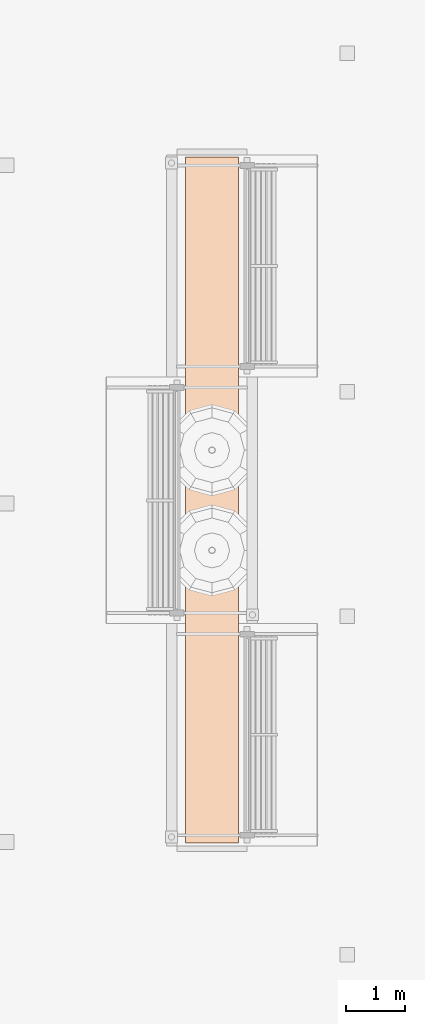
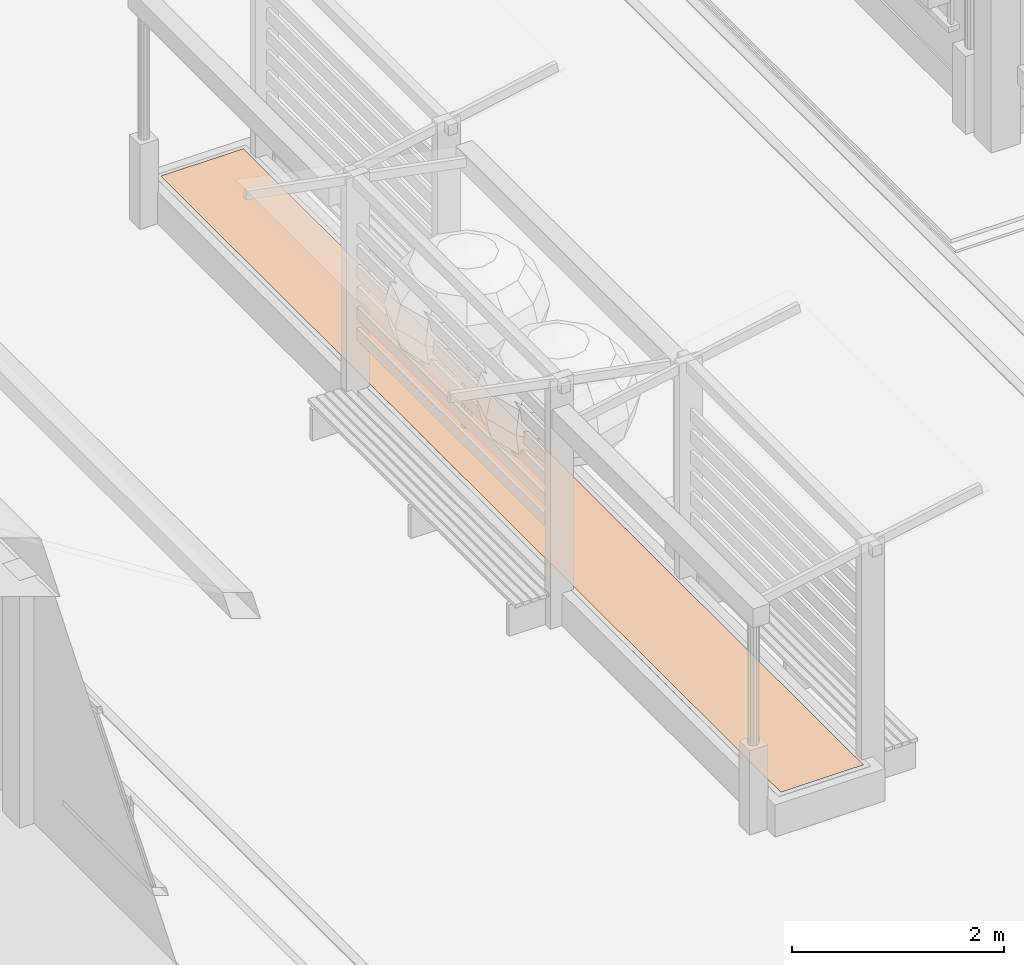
# One storey, part 161 of 177: 1 geographic element.
"""IFC4 building model written with IfcOpenShell, lengths in metres."""

import ifcopenshell
import ifcopenshell.guid

model = None  # the IFC model being written
_history = None  # IfcOwnerHistory: only IFC2X3 demands one
_inside = {}  # id of a spatial element -> (the spatial element, [elements in it])
_under = {}  # id of a project, library or spatial element -> (it, [spatial elements below it])
_declared = {}  # id of a project -> (the project, [libraries it declares])
_typed = {}  # id of a type object -> (the type object, [elements of that type])
_made_of = {}  # id of a material, layer set ... -> (it, [elements and type objects made of it])


def new_model(schema):
    """Start an empty IFC model of exactly this schema.

    Asked for "IFC4X3", IfcOpenShell would pick the latest addendum, in which some entities
    have other attributes; the version numbers below select the first issue.
    IFC2X3 requires an IfcOwnerHistory on every rooted entity: one is made here for all.
    """
    global model, _history
    if schema == "IFC4X3":
        model = ifcopenshell.file(schema_version=(4, 3, 0, 0))
    else:
        model = ifcopenshell.file(schema=schema)
    _inside.clear()
    _under.clear()
    _declared.clear()
    _typed.clear()
    _made_of.clear()
    _history = None
    if model.schema == "IFC2X3":
        org = make("IfcOrganization", Name="unknown")
        user = make(
            "IfcPersonAndOrganization",
            ThePerson=make("IfcPerson", FamilyName="unknown"),
            TheOrganization=org,
        )
        app = make(
            "IfcApplication",
            ApplicationDeveloper=org,
            Version="unknown",
            ApplicationFullName="unknown",
            ApplicationIdentifier="unknown",
        )
        _history = make(
            "IfcOwnerHistory",
            OwningUser=user,
            OwningApplication=app,
            ChangeAction="ADDED",
            CreationDate=0,
        )
    return model


def make(cls, **values):
    """One entity of the class cls with the attributes given. An attribute that is None is left unset."""
    return model.create_entity(
        cls, **{name: value for name, value in values.items() if value is not None}
    )


def rooted(cls, **values):
    """An entity with a GlobalId (a new one), such as an element, a storey or a relation."""
    return make(cls, GlobalId=ifcopenshell.guid.new(), OwnerHistory=_history, **values)


def si_unit(unit_type, name, prefix=None):
    """IfcSIUnit, for example si_unit("LENGTHUNIT", "METRE", prefix="MILLI")."""
    return make("IfcSIUnit", UnitType=unit_type, Prefix=prefix, Name=name)


def assignment(units):
    """IfcUnitAssignment: the units of a project."""
    return None if units is None else make("IfcUnitAssignment", Units=units)


def point(xyz):
    """IfcCartesianPoint."""
    return None if xyz is None else make("IfcCartesianPoint", Coordinates=xyz)


def direction(xyz):
    """IfcDirection."""
    return None if xyz is None else make("IfcDirection", DirectionRatios=xyz)


def frame(location, z_axis=None, x_axis=None):
    """IfcAxis2Placement3D, a coordinate frame: its origin and axes. An axis left out is left unset."""
    return make(
        "IfcAxis2Placement3D",
        Location=point(location),
        Axis=direction(z_axis),
        RefDirection=direction(x_axis),
    )


def origin():
    """The frame at (0, 0, 0) with its axes left unset."""
    return frame((0.0, 0.0, 0.0))


def origin_with_axes():
    """The frame at (0, 0, 0) with the z axis (0, 0, 1) and the x axis (1, 0, 0) written out."""
    return frame((0.0, 0.0, 0.0), z_axis=(0.0, 0.0, 1.0), x_axis=(1.0, 0.0, 0.0))


def place(relative_to, where):
    """IfcLocalPlacement: puts the frame where relative to a parent placement (None: the world)."""
    return make(
        "IfcLocalPlacement", PlacementRelTo=relative_to, RelativePlacement=where
    )


def context(
    kind, dimensions, precision=None, world=None, true_north=None, identifier=None
):
    """IfcGeometricRepresentationContext, for example the 3D "Model" context."""
    return make(
        "IfcGeometricRepresentationContext",
        ContextIdentifier=identifier,
        ContextType=kind,
        CoordinateSpaceDimension=dimensions,
        Precision=precision,
        WorldCoordinateSystem=world,
        TrueNorth=true_north,
    )


def subcontext(parent, identifier, kind, view, scale=None):
    """IfcGeometricRepresentationSubContext, for example "Body" below "Model"."""
    return make(
        "IfcGeometricRepresentationSubContext",
        ContextIdentifier=identifier,
        ContextType=kind,
        ParentContext=parent,
        TargetScale=scale,
        TargetView=view,
    )


def project(units=None, contexts=None):
    """IfcProject with its units and contexts."""
    return rooted(
        "IfcProject",
        Name="project",
        RepresentationContexts=contexts,
        UnitsInContext=assignment(units),
    )


def spatial(cls, under=None, at=None, **own):
    """A site, building, storey or space (cls), placed at a placement, below another one or the project."""
    s = rooted(cls, ObjectPlacement=at, **own)
    if under is not None:
        _under.setdefault(under.id(), (under, []))[1].append(s)
    return s


def point_list(points):
    """IfcCartesianPointList2D or 3D."""
    cls = (
        "IfcCartesianPointList2D" if len(points[0]) == 2 else "IfcCartesianPointList3D"
    )
    return make(cls, CoordList=points)


def triangles(points, corners, closed=None, point_numbers=None):
    """IfcTriangulatedFaceSet: each triangle names its three corners, points numbered from 1."""
    return make(
        "IfcTriangulatedFaceSet",
        Coordinates=point_list(points),
        Closed=closed,
        CoordIndex=corners,
        PnIndex=point_numbers,
    )


def shape(context_of_items, identifier, shape_type, items):
    """IfcShapeRepresentation: the items that make up one representation, for example the "Body"."""
    return make(
        "IfcShapeRepresentation",
        ContextOfItems=context_of_items,
        RepresentationIdentifier=identifier,
        RepresentationType=shape_type,
        Items=items,
    )


def made_of(thing, what):
    """Note that an element or type object is made of a material, layer set ...; save() writes the relation."""
    if what is not None:
        _made_of.setdefault(what.id(), (what, []))[1].append(thing)
    return thing


def element(
    cls,
    number,
    at=None,
    inside=None,
    cuts=None,
    type_object=None,
    material=None,
    context=None,
    identifier="Body",
    shape_type=None,
    held_by="IfcProductDefinitionShape",
    body=None,
    shapes=None,
    **own,
):
    """One element of the class cls, such as IfcWall. Its Tag is "e" and its number.

    at: its placement. inside: the storey or other place that contains it. cuts: it is an
    opening in that element (IfcRelVoidsElement). A single representation is given by context,
    identifier, shape_type and body (its items); several are given by shapes. held_by: the class
    of the entity that holds the representations. save() writes the other relations.
    """
    e = rooted(cls, Tag="e%d" % number, ObjectPlacement=at, **own)
    if body is not None:
        shapes = [shape(context, identifier, shape_type, body)]
    if shapes is not None:
        e.Representation = make(held_by, Representations=shapes)
    if inside is not None:
        _inside.setdefault(inside.id(), (inside, []))[1].append(e)
    if cuts is not None:
        rooted(
            "IfcRelVoidsElement", RelatingBuildingElement=cuts, RelatedOpeningElement=e
        )
    if type_object is not None:
        _typed.setdefault(type_object.id(), (type_object, []))[1].append(e)
    return made_of(e, material)


def aggregate(whole, parts):
    """IfcRelAggregates: a whole, such as a stair, and the parts it consists of."""
    return rooted("IfcRelAggregates", RelatingObject=whole, RelatedObjects=parts)


def save(model, path):
    """Write the relations noted so far, then the file.

    IfcRelAggregates (storeys below a building ...), IfcRelContainedInSpatialStructure (elements
    in a storey), IfcRelDefinesByType, IfcRelAssociatesMaterial and IfcRelDeclares: one each for
    every whole, place, type object, material and project.
    """
    for whole, parts in _under.values():
        aggregate(whole, parts)
    for where, things in _inside.values():
        rooted(
            "IfcRelContainedInSpatialStructure",
            RelatedElements=things,
            RelatingStructure=where,
        )
    for kind, things in _typed.values():
        rooted("IfcRelDefinesByType", RelatedObjects=things, RelatingType=kind)
    for what, things in _made_of.values():
        rooted("IfcRelAssociatesMaterial", RelatedObjects=things, RelatingMaterial=what)
    for by, libraries in _declared.values():
        rooted("IfcRelDeclares", RelatingContext=by, RelatedDefinitions=libraries)
    model.write(path)


model = new_model("IFC4")

# Units and contexts
model_context = context("Model", 3, precision=1e-05, world=origin_with_axes())
body_context = subcontext(model_context, "Body", "Model", "MODEL_VIEW")
ifc_project = project(units=[si_unit("LENGTHUNIT", "METRE"), si_unit("AREAUNIT", "SQUARE_METRE"), si_unit("VOLUMEUNIT", "CUBIC_METRE"), si_unit("PLANEANGLEUNIT", "RADIAN")], contexts=[model_context])

# Site, building, storey
site_placement = place(None, origin_with_axes())
site = spatial("IfcSite", under=ifc_project, at=site_placement, Name="Predio Los Mangos - Morales, San Martín", CompositionType="ELEMENT")
building_placement = place(site_placement, origin())
building = spatial("IfcBuilding", under=site, at=building_placement, Name="Hogar de Refugio Temporal", CompositionType="ELEMENT")
storey_placement = place(building_placement, origin())
storey = spatial("IfcBuildingStorey", under=building, at=storey_placement, Name="NIVEL 1 (NPT +0.00)", CompositionType="ELEMENT", Elevation=0.0)

# Geographic element
geographic_element_placement = place(storey_placement, origin())
element("IfcGeographicElement", 1, at=geographic_element_placement, inside=storey, Name="pasto_jardinera_0", ObjectType="Área verde", PredefinedType="TERRAIN", context=body_context, shape_type="Tessellation", body=[
    triangles([(37.95, 34.255, 0.455), (38.1, 34.255, 0.455), (38.1, 34.405, 0.455), (37.95, 34.405, 0.455), (38.1, 34.555, 0.455), (37.95, 34.555, 0.455), (38.1, 34.705, 0.455), (37.95, 34.705, 0.455), (38.1, 34.855, 0.455), (37.95, 34.855, 0.455), (38.1, 35.005, 0.455), (37.95, 35.005, 0.455), (38.1, 35.155, 0.455), (37.95, 35.155, 0.455), (38.1, 35.305, 0.455), (37.95, 35.305, 0.455), (38.1, 35.455, 0.455), (37.95, 35.455, 0.455), (38.1, 35.605, 0.455), (37.95, 35.605, 0.455), (38.1, 35.755, 0.455), (37.95, 35.755, 0.455), (38.1, 35.905, 0.455), (37.95, 35.905, 0.455), (38.1, 36.055, 0.455), (37.95, 36.055, 0.455), (38.1, 36.205, 0.455), (37.95, 36.205, 0.455), (38.1, 36.355, 0.455), (37.95, 36.355, 0.455), (38.1, 36.505, 0.455), (37.95, 36.505, 0.455), (38.1, 36.655, 0.455), (37.95, 36.655, 0.455), (38.1, 36.805, 0.455), (37.95, 36.805, 0.455), (38.1, 36.955, 0.455), (37.95, 36.955, 0.455), (38.1, 37.105, 0.455), (37.95, 37.105, 0.455), (38.1, 37.255, 0.455), (37.95, 37.255, 0.455), (38.1, 37.405, 0.455), (37.95, 37.405, 0.455), (38.1, 37.555, 0.455), (37.95, 37.555, 0.455), (38.1, 37.705, 0.455), (37.95, 37.705, 0.455), (38.1, 37.855, 0.455), (37.95, 37.855, 0.455), (38.1, 38.005, 0.455), (37.95, 38.005, 0.455), (38.1, 38.155, 0.455), (37.95, 38.155, 0.455), (38.1, 38.305, 0.455), (37.95, 38.305, 0.455), (38.1, 38.455, 0.455), (37.95, 38.455, 0.455), (38.1, 38.605, 0.455), (37.95, 38.605, 0.455), (38.1, 38.755, 0.455), (37.95, 38.755, 0.455), (38.1, 38.905, 0.455), (37.95, 38.905, 0.455), (38.1, 39.055, 0.455), (37.95, 39.055, 0.455), (38.1, 39.205, 0.455), (37.95, 39.205, 0.455), (38.1, 39.355, 0.455), (37.95, 39.355, 0.455), (38.1, 39.505, 0.455), (37.95, 39.505, 0.455), (38.1, 39.655, 0.455), (37.95, 39.655, 0.455), (38.1, 39.805, 0.455), (37.95, 39.805, 0.455), (38.1, 39.955, 0.455), (37.95, 39.955, 0.455), (38.1, 40.105, 0.455), (37.95, 40.105, 0.455), (38.1, 40.255, 0.455), (37.95, 40.255, 0.455), (38.1, 40.405, 0.455), (37.95, 40.405, 0.455), (38.1, 40.555, 0.455), (37.95, 40.555, 0.455), (38.1, 40.705, 0.455), (37.95, 40.705, 0.455), (38.1, 40.855, 0.455), (37.95, 40.855, 0.455), (38.1, 41.005, 0.455), (37.95, 41.005, 0.455), (38.1, 41.155, 0.455), (37.95, 41.155, 0.455), (38.1, 41.305, 0.455), (37.95, 41.305, 0.455), (38.1, 41.455, 0.455), (37.95, 41.455, 0.455), (38.1, 41.605, 0.455), (37.95, 41.605, 0.455), (38.1, 41.755, 0.455), (37.95, 41.755, 0.455), (38.1, 41.905, 0.455), (37.95, 41.905, 0.455), (38.1, 42.055, 0.455), (37.95, 42.055, 0.455), (38.1, 42.205, 0.455), (37.95, 42.205, 0.455), (38.1, 42.355, 0.455), (37.95, 42.355, 0.455), (38.1, 42.505, 0.455), (37.95, 42.505, 0.455), (38.1, 42.655, 0.455), (37.95, 42.655, 0.455), (38.1, 42.805, 0.455), (37.95, 42.805, 0.455), (38.1, 42.955, 0.455), (37.95, 42.955, 0.455), (38.1, 43.105, 0.455), (37.95, 43.105, 0.455), (38.1, 43.255, 0.455), (37.95, 43.255, 0.455), (38.1, 43.405, 0.455), (37.95, 43.405, 0.455), (38.1, 43.555, 0.455), (37.95, 43.555, 0.455), (38.1, 43.705, 0.455), (37.95, 43.705, 0.455), (38.1, 43.855, 0.455), (37.95, 43.855, 0.455), (38.1, 44.005, 0.455), (37.95, 44.005, 0.455), (38.1, 44.155, 0.455), (37.95, 44.155, 0.455), (38.1, 44.305, 0.455), (37.95, 44.305, 0.455), (38.1, 44.455, 0.455), (37.95, 44.455, 0.455), (38.1, 44.605, 0.455), (37.95, 44.605, 0.455), (38.1, 44.755, 0.455), (37.95, 44.755, 0.455), (38.1, 44.905, 0.455), (37.95, 44.905, 0.455), (38.1, 45.055, 0.455), (37.95, 45.055, 0.455), (38.1, 45.205, 0.455), (37.95, 45.205, 0.455), (38.1, 45.355, 0.455), (37.95, 45.355, 0.455), (38.1, 45.505, 0.455), (37.95, 45.505, 0.455), (38.1, 45.655, 0.455), (37.95, 45.655, 0.455), (38.1, 45.805, 0.455), (37.95, 45.805, 0.455), (38.1, 45.955, 0.455), (37.95, 45.955, 0.455), (38.25, 34.255, 0.455), (38.25, 34.405, 0.455), (38.25, 34.555, 0.455), (38.25, 34.705, 0.455), (38.25, 34.855, 0.455), (38.25, 35.005, 0.455), (38.25, 35.155, 0.455), (38.25, 35.305, 0.455), (38.25, 35.455, 0.455), (38.25, 35.605, 0.455), (38.25, 35.755, 0.455), (38.25, 35.905, 0.455), (38.25, 36.055, 0.455), (38.25, 36.205, 0.455), (38.25, 36.355, 0.455), (38.25, 36.505, 0.455), (38.25, 36.655, 0.455), (38.25, 36.805, 0.455), (38.25, 36.955, 0.455), (38.25, 37.105, 0.455), (38.25, 37.255, 0.455), (38.25, 37.405, 0.455), (38.25, 37.555, 0.455), (38.25, 37.705, 0.455), (38.25, 37.855, 0.455), (38.25, 38.005, 0.455), (38.25, 38.155, 0.455), (38.25, 38.305, 0.455), (38.25, 38.455, 0.455), (38.25, 38.605, 0.455), (38.25, 38.755, 0.455), (38.25, 38.905, 0.455), (38.25, 39.055, 0.455), (38.25, 39.205, 0.455), (38.25, 39.355, 0.455), (38.25, 39.505, 0.455), (38.25, 39.655, 0.455), (38.25, 39.805, 0.455), (38.25, 39.955, 0.455), (38.25, 40.105, 0.455), (38.25, 40.255, 0.455), (38.25, 40.405, 0.455), (38.25, 40.555, 0.455), (38.25, 40.705, 0.455), (38.25, 40.855, 0.455), (38.25, 41.005, 0.455), (38.25, 41.155, 0.455), (38.25, 41.305, 0.455), (38.25, 41.455, 0.455), (38.25, 41.605, 0.455), (38.25, 41.755, 0.455), (38.25, 41.905, 0.455), (38.25, 42.055, 0.455), (38.25, 42.205, 0.455), (38.25, 42.355, 0.455), (38.25, 42.505, 0.455), (38.25, 42.655, 0.455), (38.25, 42.805, 0.455), (38.25, 42.955, 0.455), (38.25, 43.105, 0.455), (38.25, 43.255, 0.455), (38.25, 43.405, 0.455), (38.25, 43.555, 0.455), (38.25, 43.705, 0.455), (38.25, 43.855, 0.455), (38.25, 44.005, 0.455), (38.25, 44.155, 0.455), (38.25, 44.305, 0.455), (38.25, 44.455, 0.455), (38.25, 44.605, 0.455), (38.25, 44.755, 0.455), (38.25, 44.905, 0.455), (38.25, 45.055, 0.455), (38.25, 45.205, 0.455), (38.25, 45.355, 0.455), (38.25, 45.505, 0.455), (38.25, 45.655, 0.455), (38.25, 45.805, 0.455), (38.25, 45.955, 0.455), (38.4, 34.255, 0.455), (38.4, 34.405, 0.455), (38.4, 34.555, 0.455), (38.4, 34.705, 0.455), (38.4, 34.855, 0.455), (38.4, 35.005, 0.455), (38.4, 35.155, 0.455), (38.4, 35.305, 0.455), (38.4, 35.455, 0.455), (38.4, 35.605, 0.455), (38.4, 35.755, 0.455), (38.4, 35.905, 0.455), (38.4, 36.055, 0.455), (38.4, 36.205, 0.455), (38.4, 36.355, 0.455), (38.4, 36.505, 0.455), (38.4, 36.655, 0.455), (38.4, 36.805, 0.455), (38.4, 36.955, 0.455), (38.4, 37.105, 0.455), (38.4, 37.255, 0.455), (38.4, 37.405, 0.455), (38.4, 37.555, 0.455), (38.4, 37.705, 0.455), (38.4, 37.855, 0.455), (38.4, 38.005, 0.455), (38.4, 38.155, 0.455), (38.4, 38.305, 0.455), (38.4, 38.455, 0.455), (38.4, 38.605, 0.455), (38.4, 38.755, 0.455), (38.4, 38.905, 0.455), (38.4, 39.055, 0.455), (38.4, 39.205, 0.455), (38.4, 39.355, 0.455), (38.4, 39.505, 0.455), (38.4, 39.655, 0.455), (38.4, 39.805, 0.455), (38.4, 39.955, 0.455), (38.4, 40.105, 0.455), (38.4, 40.255, 0.455), (38.4, 40.405, 0.455), (38.4, 40.555, 0.455), (38.4, 40.705, 0.455), (38.4, 40.855, 0.455), (38.4, 41.005, 0.455), (38.4, 41.155, 0.455), (38.4, 41.305, 0.455), (38.4, 41.455, 0.455), (38.4, 41.605, 0.455), (38.4, 41.755, 0.455), (38.4, 41.905, 0.455), (38.4, 42.055, 0.455), (38.4, 42.205, 0.455), (38.4, 42.355, 0.455), (38.4, 42.505, 0.455), (38.4, 42.655, 0.455), (38.4, 42.805, 0.455), (38.4, 42.955, 0.455), (38.4, 43.105, 0.455), (38.4, 43.255, 0.455), (38.4, 43.405, 0.455), (38.4, 43.555, 0.455), (38.4, 43.705, 0.455), (38.4, 43.855, 0.455), (38.4, 44.005, 0.455), (38.4, 44.155, 0.455), (38.4, 44.305, 0.455), (38.4, 44.455, 0.455), (38.4, 44.605, 0.455), (38.4, 44.755, 0.455), (38.4, 44.905, 0.455), (38.4, 45.055, 0.455), (38.4, 45.205, 0.455), (38.4, 45.355, 0.455), (38.4, 45.505, 0.455), (38.4, 45.655, 0.455), (38.4, 45.805, 0.455), (38.4, 45.955, 0.455), (38.55, 34.255, 0.455), (38.55, 34.405, 0.455), (38.55, 34.555, 0.455), (38.55, 34.705, 0.455), (38.55, 34.855, 0.455), (38.55, 35.005, 0.455), (38.55, 35.155, 0.455), (38.55, 35.305, 0.455), (38.55, 35.455, 0.455), (38.55, 35.605, 0.455), (38.55, 35.755, 0.455), (38.55, 35.905, 0.455), (38.55, 36.055, 0.455), (38.55, 36.205, 0.455), (38.55, 36.355, 0.455), (38.55, 36.505, 0.455), (38.55, 36.655, 0.455), (38.55, 36.805, 0.455), (38.55, 36.955, 0.455), (38.55, 37.105, 0.455), (38.55, 37.255, 0.455), (38.55, 37.405, 0.455), (38.55, 37.555, 0.455), (38.55, 37.705, 0.455), (38.55, 37.855, 0.455), (38.55, 38.005, 0.455), (38.55, 38.155, 0.455), (38.55, 38.305, 0.455), (38.55, 38.455, 0.455), (38.55, 38.605, 0.455), (38.55, 38.755, 0.455), (38.55, 38.905, 0.455), (38.55, 39.055, 0.455), (38.55, 39.205, 0.455), (38.55, 39.355, 0.455), (38.55, 39.505, 0.455), (38.55, 39.655, 0.455), (38.55, 39.805, 0.455), (38.55, 39.955, 0.455), (38.55, 40.105, 0.455), (38.55, 40.255, 0.455), (38.55, 40.405, 0.455), (38.55, 40.555, 0.455), (38.55, 40.705, 0.455), (38.55, 40.855, 0.455), (38.55, 41.005, 0.455), (38.55, 41.155, 0.455), (38.55, 41.305, 0.455), (38.55, 41.455, 0.455), (38.55, 41.605, 0.455), (38.55, 41.755, 0.455), (38.55, 41.905, 0.455), (38.55, 42.055, 0.455), (38.55, 42.205, 0.455), (38.55, 42.355, 0.455), (38.55, 42.505, 0.455), (38.55, 42.655, 0.455), (38.55, 42.805, 0.455), (38.55, 42.955, 0.455), (38.55, 43.105, 0.455), (38.55, 43.255, 0.455), (38.55, 43.405, 0.455), (38.55, 43.555, 0.455), (38.55, 43.705, 0.455), (38.55, 43.855, 0.455), (38.55, 44.005, 0.455), (38.55, 44.155, 0.455), (38.55, 44.305, 0.455), (38.55, 44.455, 0.455), (38.55, 44.605, 0.455), (38.55, 44.755, 0.455), (38.55, 44.905, 0.455), (38.55, 45.055, 0.455), (38.55, 45.205, 0.455), (38.55, 45.355, 0.455), (38.55, 45.505, 0.455), (38.55, 45.655, 0.455), (38.55, 45.805, 0.455), (38.55, 45.955, 0.455), (38.7, 34.255, 0.455), (38.7, 34.405, 0.455), (38.7, 34.555, 0.455), (38.7, 34.705, 0.455), (38.7, 34.855, 0.455), (38.7, 35.005, 0.455), (38.7, 35.155, 0.455), (38.7, 35.305, 0.455), (38.7, 35.455, 0.455), (38.7, 35.605, 0.455), (38.7, 35.755, 0.455), (38.7, 35.905, 0.455), (38.7, 36.055, 0.455), (38.7, 36.205, 0.455), (38.7, 36.355, 0.455), (38.7, 36.505, 0.455), (38.7, 36.655, 0.455), (38.7, 36.805, 0.455), (38.7, 36.955, 0.455), (38.7, 37.105, 0.455), (38.7, 37.255, 0.455), (38.7, 37.405, 0.455), (38.7, 37.555, 0.455), (38.7, 37.705, 0.455), (38.7, 37.855, 0.455), (38.7, 38.005, 0.455), (38.7, 38.155, 0.455), (38.7, 38.305, 0.455), (38.7, 38.455, 0.455), (38.7, 38.605, 0.455), (38.7, 38.755, 0.455), (38.7, 38.905, 0.455), (38.7, 39.055, 0.455), (38.7, 39.205, 0.455), (38.7, 39.355, 0.455), (38.7, 39.505, 0.455), (38.7, 39.655, 0.455), (38.7, 39.805, 0.455), (38.7, 39.955, 0.455), (38.7, 40.105, 0.455), (38.7, 40.255, 0.455), (38.7, 40.405, 0.455), (38.7, 40.555, 0.455), (38.7, 40.705, 0.455), (38.7, 40.855, 0.455), (38.7, 41.005, 0.455), (38.7, 41.155, 0.455), (38.7, 41.305, 0.455), (38.7, 41.455, 0.455), (38.7, 41.605, 0.455), (38.7, 41.755, 0.455), (38.7, 41.905, 0.455), (38.7, 42.055, 0.455), (38.7, 42.205, 0.455), (38.7, 42.355, 0.455), (38.7, 42.505, 0.455), (38.7, 42.655, 0.455), (38.7, 42.805, 0.455), (38.7, 42.955, 0.455), (38.7, 43.105, 0.455), (38.7, 43.255, 0.455), (38.7, 43.405, 0.455), (38.7, 43.555, 0.455), (38.7, 43.705, 0.455), (38.7, 43.855, 0.455), (38.7, 44.005, 0.455), (38.7, 44.155, 0.455), (38.7, 44.305, 0.455), (38.7, 44.455, 0.455), (38.7, 44.605, 0.455), (38.7, 44.755, 0.455), (38.7, 44.905, 0.455), (38.7, 45.055, 0.455), (38.7, 45.205, 0.455), (38.7, 45.355, 0.455), (38.7, 45.505, 0.455), (38.7, 45.655, 0.455), (38.7, 45.805, 0.455), (38.7, 45.955, 0.455), (38.85, 34.255, 0.455), (38.85, 34.405, 0.455), (38.85, 34.555, 0.455), (38.85, 34.705, 0.455), (38.85, 34.855, 0.455), (38.85, 35.005, 0.455), (38.85, 35.155, 0.455), (38.85, 35.305, 0.455), (38.85, 35.455, 0.455), (38.85, 35.605, 0.455), (38.85, 35.755, 0.455), (38.85, 35.905, 0.455), (38.85, 36.055, 0.455), (38.85, 36.205, 0.455), (38.85, 36.355, 0.455), (38.85, 36.505, 0.455), (38.85, 36.655, 0.455), (38.85, 36.805, 0.455), (38.85, 36.955, 0.455), (38.85, 37.105, 0.455), (38.85, 37.255, 0.455), (38.85, 37.405, 0.455), (38.85, 37.555, 0.455), (38.85, 37.705, 0.455), (38.85, 37.855, 0.455), (38.85, 38.005, 0.455), (38.85, 38.155, 0.455), (38.85, 38.305, 0.455), (38.85, 38.455, 0.455), (38.85, 38.605, 0.455), (38.85, 38.755, 0.455), (38.85, 38.905, 0.455), (38.85, 39.055, 0.455), (38.85, 39.205, 0.455), (38.85, 39.355, 0.455), (38.85, 39.505, 0.455), (38.85, 39.655, 0.455), (38.85, 39.805, 0.455), (38.85, 39.955, 0.455), (38.85, 40.105, 0.455), (38.85, 40.255, 0.455), (38.85, 40.405, 0.455), (38.85, 40.555, 0.455), (38.85, 40.705, 0.455), (38.85, 40.855, 0.455), (38.85, 41.005, 0.455), (38.85, 41.155, 0.455), (38.85, 41.305, 0.455), (38.85, 41.455, 0.455), (38.85, 41.605, 0.455), (38.85, 41.755, 0.455), (38.85, 41.905, 0.455), (38.85, 42.055, 0.455), (38.85, 42.205, 0.455), (38.85, 42.355, 0.455), (38.85, 42.505, 0.455), (38.85, 42.655, 0.455), (38.85, 42.805, 0.455), (38.85, 42.955, 0.455), (38.85, 43.105, 0.455), (38.85, 43.255, 0.455), (38.85, 43.405, 0.455), (38.85, 43.555, 0.455), (38.85, 43.705, 0.455), (38.85, 43.855, 0.455), (38.85, 44.005, 0.455), (38.85, 44.155, 0.455), (38.85, 44.305, 0.455), (38.85, 44.455, 0.455), (38.85, 44.605, 0.455), (38.85, 44.755, 0.455), (38.85, 44.905, 0.455), (38.85, 45.055, 0.455), (38.85, 45.205, 0.455), (38.85, 45.355, 0.455), (38.85, 45.505, 0.455), (38.85, 45.655, 0.455), (38.85, 45.805, 0.455), (38.85, 45.955, 0.455)], [[1, 2, 3], [1, 3, 4], [4, 3, 5], [4, 5, 6], [6, 5, 7], [6, 7, 8], [8, 7, 9], [8, 9, 10], [10, 9, 11], [10, 11, 12], [12, 11, 13], [12, 13, 14], [14, 13, 15], [14, 15, 16], [16, 15, 17], [16, 17, 18], [18, 17, 19], [18, 19, 20], [20, 19, 21], [20, 21, 22], [22, 21, 23], [22, 23, 24], [24, 23, 25], [24, 25, 26], [26, 25, 27], [26, 27, 28], [28, 27, 29], [28, 29, 30], [30, 29, 31], [30, 31, 32], [32, 31, 33], [32, 33, 34], [34, 33, 35], [34, 35, 36], [36, 35, 37], [36, 37, 38], [38, 37, 39], [38, 39, 40], [40, 39, 41], [40, 41, 42], [42, 41, 43], [42, 43, 44], [44, 43, 45], [44, 45, 46], [46, 45, 47], [46, 47, 48], [48, 47, 49], [48, 49, 50], [50, 49, 51], [50, 51, 52], [52, 51, 53], [52, 53, 54], [54, 53, 55], [54, 55, 56], [56, 55, 57], [56, 57, 58], [58, 57, 59], [58, 59, 60], [60, 59, 61], [60, 61, 62], [62, 61, 63], [62, 63, 64], [64, 63, 65], [64, 65, 66], [66, 65, 67], [66, 67, 68], [68, 67, 69], [68, 69, 70], [70, 69, 71], [70, 71, 72], [72, 71, 73], [72, 73, 74], [74, 73, 75], [74, 75, 76], [76, 75, 77], [76, 77, 78], [78, 77, 79], [78, 79, 80], [80, 79, 81], [80, 81, 82], [82, 81, 83], [82, 83, 84], [84, 83, 85], [84, 85, 86], [86, 85, 87], [86, 87, 88], [88, 87, 89], [88, 89, 90], [90, 89, 91], [90, 91, 92], [92, 91, 93], [92, 93, 94], [94, 93, 95], [94, 95, 96], [96, 95, 97], [96, 97, 98], [98, 97, 99], [98, 99, 100], [100, 99, 101], [100, 101, 102], [102, 101, 103], [102, 103, 104], [104, 103, 105], [104, 105, 106], [106, 105, 107], [106, 107, 108], [108, 107, 109], [108, 109, 110], [110, 109, 111], [110, 111, 112], [112, 111, 113], [112, 113, 114], [114, 113, 115], [114, 115, 116], [116, 115, 117], [116, 117, 118], [118, 117, 119], [118, 119, 120], [120, 119, 121], [120, 121, 122], [122, 121, 123], [122, 123, 124], [124, 123, 125], [124, 125, 126], [126, 125, 127], [126, 127, 128], [128, 127, 129], [128, 129, 130], [130, 129, 131], [130, 131, 132], [132, 131, 133], [132, 133, 134], [134, 133, 135], [134, 135, 136], [136, 135, 137], [136, 137, 138], [138, 137, 139], [138, 139, 140], [140, 139, 141], [140, 141, 142], [142, 141, 143], [142, 143, 144], [144, 143, 145], [144, 145, 146], [146, 145, 147], [146, 147, 148], [148, 147, 149], [148, 149, 150], [150, 149, 151], [150, 151, 152], [152, 151, 153], [152, 153, 154], [154, 153, 155], [154, 155, 156], [156, 155, 157], [156, 157, 158], [2, 159, 160], [2, 160, 3], [3, 160, 161], [3, 161, 5], [5, 161, 162], [5, 162, 7], [7, 162, 163], [7, 163, 9], [9, 163, 164], [9, 164, 11], [11, 164, 165], [11, 165, 13], [13, 165, 166], [13, 166, 15], [15, 166, 167], [15, 167, 17], [17, 167, 168], [17, 168, 19], [19, 168, 169], [19, 169, 21], [21, 169, 170], [21, 170, 23], [23, 170, 171], [23, 171, 25], [25, 171, 172], [25, 172, 27], [27, 172, 173], [27, 173, 29], [29, 173, 174], [29, 174, 31], [31, 174, 175], [31, 175, 33], [33, 175, 176], [33, 176, 35], [35, 176, 177], [35, 177, 37], [37, 177, 178], [37, 178, 39], [39, 178, 179], [39, 179, 41], [41, 179, 180], [41, 180, 43], [43, 180, 181], [43, 181, 45], [45, 181, 182], [45, 182, 47], [47, 182, 183], [47, 183, 49], [49, 183, 184], [49, 184, 51], [51, 184, 185], [51, 185, 53], [53, 185, 186], [53, 186, 55], [55, 186, 187], [55, 187, 57], [57, 187, 188], [57, 188, 59], [59, 188, 189], [59, 189, 61], [61, 189, 190], [61, 190, 63], [63, 190, 191], [63, 191, 65], [65, 191, 192], [65, 192, 67], [67, 192, 193], [67, 193, 69], [69, 193, 194], [69, 194, 71], [71, 194, 195], [71, 195, 73], [73, 195, 196], [73, 196, 75], [75, 196, 197], [75, 197, 77], [77, 197, 198], [77, 198, 79], [79, 198, 199], [79, 199, 81], [81, 199, 200], [81, 200, 83], [83, 200, 201], [83, 201, 85], [85, 201, 202], [85, 202, 87], [87, 202, 203], [87, 203, 89], [89, 203, 204], [89, 204, 91], [91, 204, 205], [91, 205, 93], [93, 205, 206], [93, 206, 95], [95, 206, 207], [95, 207, 97], [97, 207, 208], [97, 208, 99], [99, 208, 209], [99, 209, 101], [101, 209, 210], [101, 210, 103], [103, 210, 211], [103, 211, 105], [105, 211, 212], [105, 212, 107], [107, 212, 213], [107, 213, 109], [109, 213, 214], [109, 214, 111], [111, 214, 215], [111, 215, 113], [113, 215, 216], [113, 216, 115], [115, 216, 217], [115, 217, 117], [117, 217, 218], [117, 218, 119], [119, 218, 219], [119, 219, 121], [121, 219, 220], [121, 220, 123], [123, 220, 221], [123, 221, 125], [125, 221, 222], [125, 222, 127], [127, 222, 223], [127, 223, 129], [129, 223, 224], [129, 224, 131], [131, 224, 225], [131, 225, 133], [133, 225, 226], [133, 226, 135], [135, 226, 227], [135, 227, 137], [137, 227, 228], [137, 228, 139], [139, 228, 229], [139, 229, 141], [141, 229, 230], [141, 230, 143], [143, 230, 231], [143, 231, 145], [145, 231, 232], [145, 232, 147], [147, 232, 233], [147, 233, 149], [149, 233, 234], [149, 234, 151], [151, 234, 235], [151, 235, 153], [153, 235, 236], [153, 236, 155], [155, 236, 237], [155, 237, 157], [159, 238, 239], [159, 239, 160], [160, 239, 240], [160, 240, 161], [161, 240, 241], [161, 241, 162], [162, 241, 242], [162, 242, 163], [163, 242, 243], [163, 243, 164], [164, 243, 244], [164, 244, 165], [165, 244, 245], [165, 245, 166], [166, 245, 246], [166, 246, 167], [167, 246, 247], [167, 247, 168], [168, 247, 248], [168, 248, 169], [169, 248, 249], [169, 249, 170], [170, 249, 250], [170, 250, 171], [171, 250, 251], [171, 251, 172], [172, 251, 252], [172, 252, 173], [173, 252, 253], [173, 253, 174], [174, 253, 254], [174, 254, 175], [175, 254, 255], [175, 255, 176], [176, 255, 256], [176, 256, 177], [177, 256, 257], [177, 257, 178], [178, 257, 258], [178, 258, 179], [179, 258, 259], [179, 259, 180], [180, 259, 260], [180, 260, 181], [181, 260, 261], [181, 261, 182], [182, 261, 262], [182, 262, 183], [183, 262, 263], [183, 263, 184], [184, 263, 264], [184, 264, 185], [185, 264, 265], [185, 265, 186], [186, 265, 266], [186, 266, 187], [187, 266, 267], [187, 267, 188], [188, 267, 268], [188, 268, 189], [189, 268, 269], [189, 269, 190], [190, 269, 270], [190, 270, 191], [191, 270, 271], [191, 271, 192], [192, 271, 272], [192, 272, 193], [193, 272, 273], [193, 273, 194], [194, 273, 274], [194, 274, 195], [195, 274, 275], [195, 275, 196], [196, 275, 276], [196, 276, 197], [197, 276, 277], [197, 277, 198], [198, 277, 278], [198, 278, 199], [199, 278, 279], [199, 279, 200], [200, 279, 280], [200, 280, 201], [201, 280, 281], [201, 281, 202], [202, 281, 282], [202, 282, 203], [203, 282, 283], [203, 283, 204], [204, 283, 284], [204, 284, 205], [205, 284, 285], [205, 285, 206], [206, 285, 286], [206, 286, 207], [207, 286, 287], [207, 287, 208], [208, 287, 288], [208, 288, 209], [209, 288, 289], [209, 289, 210], [210, 289, 290], [210, 290, 211], [211, 290, 291], [211, 291, 212], [212, 291, 292], [212, 292, 213], [213, 292, 293], [213, 293, 214], [214, 293, 294], [214, 294, 215], [215, 294, 295], [215, 295, 216], [216, 295, 296], [216, 296, 217], [217, 296, 297], [217, 297, 218], [218, 297, 298], [218, 298, 219], [219, 298, 299], [219, 299, 220], [220, 299, 300], [220, 300, 221], [221, 300, 301], [221, 301, 222], [222, 301, 302], [222, 302, 223], [223, 302, 303], [223, 303, 224], [224, 303, 304], [224, 304, 225], [225, 304, 305], [225, 305, 226], [226, 305, 306], [226, 306, 227], [227, 306, 307], [227, 307, 228], [228, 307, 308], [228, 308, 229], [229, 308, 309], [229, 309, 230], [230, 309, 310], [230, 310, 231], [231, 310, 311], [231, 311, 232], [232, 311, 312], [232, 312, 233], [233, 312, 313], [233, 313, 234], [234, 313, 314], [234, 314, 235], [235, 314, 315], [235, 315, 236], [236, 315, 316], [236, 316, 237], [238, 317, 318], [238, 318, 239], [239, 318, 319], [239, 319, 240], [240, 319, 320], [240, 320, 241], [241, 320, 321], [241, 321, 242], [242, 321, 322], [242, 322, 243], [243, 322, 323], [243, 323, 244], [244, 323, 324], [244, 324, 245], [245, 324, 325], [245, 325, 246], [246, 325, 326], [246, 326, 247], [247, 326, 327], [247, 327, 248], [248, 327, 328], [248, 328, 249], [249, 328, 329], [249, 329, 250], [250, 329, 330], [250, 330, 251], [251, 330, 331], [251, 331, 252], [252, 331, 332], [252, 332, 253], [253, 332, 333], [253, 333, 254], [254, 333, 334], [254, 334, 255], [255, 334, 335], [255, 335, 256], [256, 335, 336], [256, 336, 257], [257, 336, 337], [257, 337, 258], [258, 337, 338], [258, 338, 259], [259, 338, 339], [259, 339, 260], [260, 339, 340], [260, 340, 261], [261, 340, 341], [261, 341, 262], [262, 341, 342], [262, 342, 263], [263, 342, 343], [263, 343, 264], [264, 343, 344], [264, 344, 265], [265, 344, 345], [265, 345, 266], [266, 345, 346], [266, 346, 267], [267, 346, 347], [267, 347, 268], [268, 347, 348], [268, 348, 269], [269, 348, 349], [269, 349, 270], [270, 349, 350], [270, 350, 271], [271, 350, 351], [271, 351, 272], [272, 351, 352], [272, 352, 273], [273, 352, 353], [273, 353, 274], [274, 353, 354], [274, 354, 275], [275, 354, 355], [275, 355, 276], [276, 355, 356], [276, 356, 277], [277, 356, 357], [277, 357, 278], [278, 357, 358], [278, 358, 279], [279, 358, 359], [279, 359, 280], [280, 359, 360], [280, 360, 281], [281, 360, 361], [281, 361, 282], [282, 361, 362], [282, 362, 283], [283, 362, 363], [283, 363, 284], [284, 363, 364], [284, 364, 285], [285, 364, 365], [285, 365, 286], [286, 365, 366], [286, 366, 287], [287, 366, 367], [287, 367, 288], [288, 367, 368], [288, 368, 289], [289, 368, 369], [289, 369, 290], [290, 369, 370], [290, 370, 291], [291, 370, 371], [291, 371, 292], [292, 371, 372], [292, 372, 293], [293, 372, 373], [293, 373, 294], [294, 373, 374], [294, 374, 295], [295, 374, 375], [295, 375, 296], [296, 375, 376], [296, 376, 297], [297, 376, 377], [297, 377, 298], [298, 377, 378], [298, 378, 299], [299, 378, 379], [299, 379, 300], [300, 379, 380], [300, 380, 301], [301, 380, 381], [301, 381, 302], [302, 381, 382], [302, 382, 303], [303, 382, 383], [303, 383, 304], [304, 383, 384], [304, 384, 305], [305, 384, 385], [305, 385, 306], [306, 385, 386], [306, 386, 307], [307, 386, 387], [307, 387, 308], [308, 387, 388], [308, 388, 309], [309, 388, 389], [309, 389, 310], [310, 389, 390], [310, 390, 311], [311, 390, 391], [311, 391, 312], [312, 391, 392], [312, 392, 313], [313, 392, 393], [313, 393, 314], [314, 393, 394], [314, 394, 315], [315, 394, 395], [315, 395, 316], [317, 396, 397], [317, 397, 318], [318, 397, 398], [318, 398, 319], [319, 398, 399], [319, 399, 320], [320, 399, 400], [320, 400, 321], [321, 400, 401], [321, 401, 322], [322, 401, 402], [322, 402, 323], [323, 402, 403], [323, 403, 324], [324, 403, 404], [324, 404, 325], [325, 404, 405], [325, 405, 326], [326, 405, 406], [326, 406, 327], [327, 406, 407], [327, 407, 328], [328, 407, 408], [328, 408, 329], [329, 408, 409], [329, 409, 330], [330, 409, 410], [330, 410, 331], [331, 410, 411], [331, 411, 332], [332, 411, 412], [332, 412, 333], [333, 412, 413], [333, 413, 334], [334, 413, 414], [334, 414, 335], [335, 414, 415], [335, 415, 336], [336, 415, 416], [336, 416, 337], [337, 416, 417], [337, 417, 338], [338, 417, 418], [338, 418, 339], [339, 418, 419], [339, 419, 340], [340, 419, 420], [340, 420, 341], [341, 420, 421], [341, 421, 342], [342, 421, 422], [342, 422, 343], [343, 422, 423], [343, 423, 344], [344, 423, 424], [344, 424, 345], [345, 424, 425], [345, 425, 346], [346, 425, 426], [346, 426, 347], [347, 426, 427], [347, 427, 348], [348, 427, 428], [348, 428, 349], [349, 428, 429], [349, 429, 350], [350, 429, 430], [350, 430, 351], [351, 430, 431], [351, 431, 352], [352, 431, 432], [352, 432, 353], [353, 432, 433], [353, 433, 354], [354, 433, 434], [354, 434, 355], [355, 434, 435], [355, 435, 356], [356, 435, 436], [356, 436, 357], [357, 436, 437], [357, 437, 358], [358, 437, 438], [358, 438, 359], [359, 438, 439], [359, 439, 360], [360, 439, 440], [360, 440, 361], [361, 440, 441], [361, 441, 362], [362, 441, 442], [362, 442, 363], [363, 442, 443], [363, 443, 364], [364, 443, 444], [364, 444, 365], [365, 444, 445], [365, 445, 366], [366, 445, 446], [366, 446, 367], [367, 446, 447], [367, 447, 368], [368, 447, 448], [368, 448, 369], [369, 448, 449], [369, 449, 370], [370, 449, 450], [370, 450, 371], [371, 450, 451], [371, 451, 372], [372, 451, 452], [372, 452, 373], [373, 452, 453], [373, 453, 374], [374, 453, 454], [374, 454, 375], [375, 454, 455], [375, 455, 376], [376, 455, 456], [376, 456, 377], [377, 456, 457], [377, 457, 378], [378, 457, 458], [378, 458, 379], [379, 458, 459], [379, 459, 380], [380, 459, 460], [380, 460, 381], [381, 460, 461], [381, 461, 382], [382, 461, 462], [382, 462, 383], [383, 462, 463], [383, 463, 384], [384, 463, 464], [384, 464, 385], [385, 464, 465], [385, 465, 386], [386, 465, 466], [386, 466, 387], [387, 466, 467], [387, 467, 388], [388, 467, 468], [388, 468, 389], [389, 468, 469], [389, 469, 390], [390, 469, 470], [390, 470, 391], [391, 470, 471], [391, 471, 392], [392, 471, 472], [392, 472, 393], [393, 472, 473], [393, 473, 394], [394, 473, 474], [394, 474, 395], [396, 475, 476], [396, 476, 397], [397, 476, 477], [397, 477, 398], [398, 477, 478], [398, 478, 399], [399, 478, 479], [399, 479, 400], [400, 479, 480], [400, 480, 401], [401, 480, 481], [401, 481, 402], [402, 481, 482], [402, 482, 403], [403, 482, 483], [403, 483, 404], [404, 483, 484], [404, 484, 405], [405, 484, 485], [405, 485, 406], [406, 485, 486], [406, 486, 407], [407, 486, 487], [407, 487, 408], [408, 487, 488], [408, 488, 409], [409, 488, 489], [409, 489, 410], [410, 489, 490], [410, 490, 411], [411, 490, 491], [411, 491, 412], [412, 491, 492], [412, 492, 413], [413, 492, 493], [413, 493, 414], [414, 493, 494], [414, 494, 415], [415, 494, 495], [415, 495, 416], [416, 495, 496], [416, 496, 417], [417, 496, 497], [417, 497, 418], [418, 497, 498], [418, 498, 419], [419, 498, 499], [419, 499, 420], [420, 499, 500], [420, 500, 421], [421, 500, 501], [421, 501, 422], [422, 501, 502], [422, 502, 423], [423, 502, 503], [423, 503, 424], [424, 503, 504], [424, 504, 425], [425, 504, 505], [425, 505, 426], [426, 505, 506], [426, 506, 427], [427, 506, 507], [427, 507, 428], [428, 507, 508], [428, 508, 429], [429, 508, 509], [429, 509, 430], [430, 509, 510], [430, 510, 431], [431, 510, 511], [431, 511, 432], [432, 511, 512], [432, 512, 433], [433, 512, 513], [433, 513, 434], [434, 513, 514], [434, 514, 435], [435, 514, 515], [435, 515, 436], [436, 515, 516], [436, 516, 437], [437, 516, 517], [437, 517, 438], [438, 517, 518], [438, 518, 439], [439, 518, 519], [439, 519, 440], [440, 519, 520], [440, 520, 441], [441, 520, 521], [441, 521, 442], [442, 521, 522], [442, 522, 443], [443, 522, 523], [443, 523, 444], [444, 523, 524], [444, 524, 445], [445, 524, 525], [445, 525, 446], [446, 525, 526], [446, 526, 447], [447, 526, 527], [447, 527, 448], [448, 527, 528], [448, 528, 449], [449, 528, 529], [449, 529, 450], [450, 529, 530], [450, 530, 451], [451, 530, 531], [451, 531, 452], [452, 531, 532], [452, 532, 453], [453, 532, 533], [453, 533, 454], [454, 533, 534], [454, 534, 455], [455, 534, 535], [455, 535, 456], [456, 535, 536], [456, 536, 457], [457, 536, 537], [457, 537, 458], [458, 537, 538], [458, 538, 459], [459, 538, 539], [459, 539, 460], [460, 539, 540], [460, 540, 461], [461, 540, 541], [461, 541, 462], [462, 541, 542], [462, 542, 463], [463, 542, 543], [463, 543, 464], [464, 543, 544], [464, 544, 465], [465, 544, 545], [465, 545, 466], [466, 545, 546], [466, 546, 467], [467, 546, 547], [467, 547, 468], [468, 547, 548], [468, 548, 469], [469, 548, 549], [469, 549, 470], [470, 549, 550], [470, 550, 471], [471, 550, 551], [471, 551, 472], [472, 551, 552], [472, 552, 473], [473, 552, 553], [473, 553, 474]]),
])

save(model, "model.ifc")
